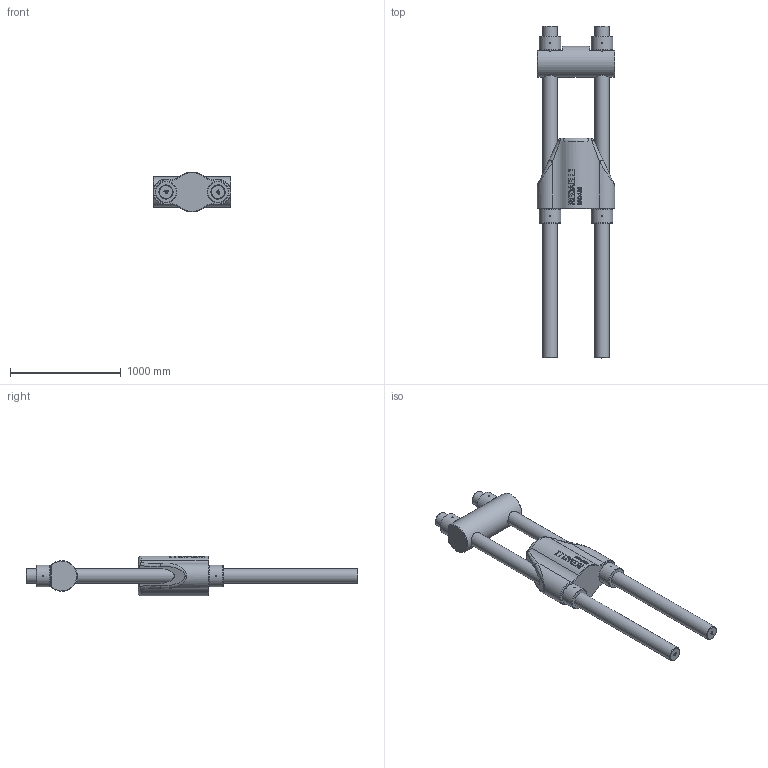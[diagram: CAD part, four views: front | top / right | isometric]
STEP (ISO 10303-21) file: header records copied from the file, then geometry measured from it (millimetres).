
FILE_DESCRIPTION(/* description */ (''),/* implementation_level */ '2;1');
FILE_NAME(/* name */ 'D:\Clienti\Redaelli (inventor)\BRC\STEP\Arrangemet\BRC116 72 111 0.stp',/* time_stamp */ '2021-05-08T08:42:30+02:00',/* author */ ('fabri'),/* organization */ (''),/* preprocessor_version */ 'ST-DEVELOPER v16.13',/* originating_system */ 'Autodesk Inventor 2018',/* authorisation */ '');
FILE_SCHEMA (('AUTOMOTIVE_DESIGN { 1 0 10303 214 3 1 1 }'));
Length unit declared in the file: millimetre
Products named in the file (5): BRC020 72 111 0; BRC020 71 112 0; BRC020 71 114 0_ROD; BRC020 71 113 0; BRC020 71 114 0_NUT
Assembly tree (8 placements, depth 2):
  BRC020 72 111 0
    BRC020 71 112 0
    BRC020 71 114 0_ROD  x2
    BRC020 71 113 0
    BRC020 71 114 0_NUT  x4
Bounding box: 702 x 3000 x 360 mm (x, y, z)
Volume: 205097987.1 mm3; surface area: 5562877 mm2
Topology: 8 solids, 8 shells, 1500 faces, 4046 edges, 2686 vertices
Faces by surface type: plane 790, bspline 587, cylinder 69, cone 30, torus 20, sphere 4
Full cylindrical faces by diameter (mm): 10 x16, 123.505 x4, 130 x2, 136 x4, 195 x4, 278 x1
Entity records: 29858 total; most frequent: CARTESIAN_POINT 11098, ORIENTED_EDGE 4394, DIRECTION 2769, EDGE_CURVE 2197, VERTEX_POINT 1464, LINE 1291, VECTOR 1291, EDGE_LOOP 933
